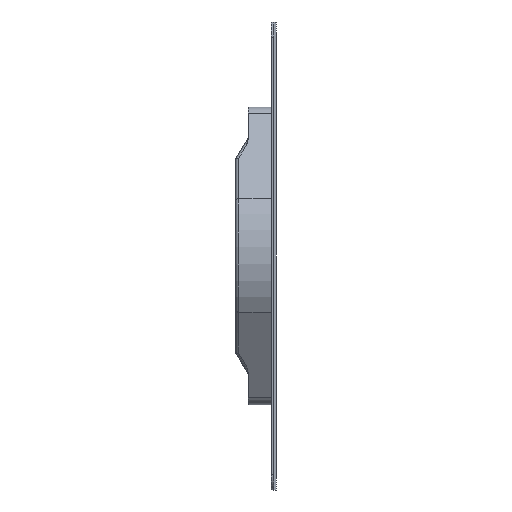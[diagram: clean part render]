
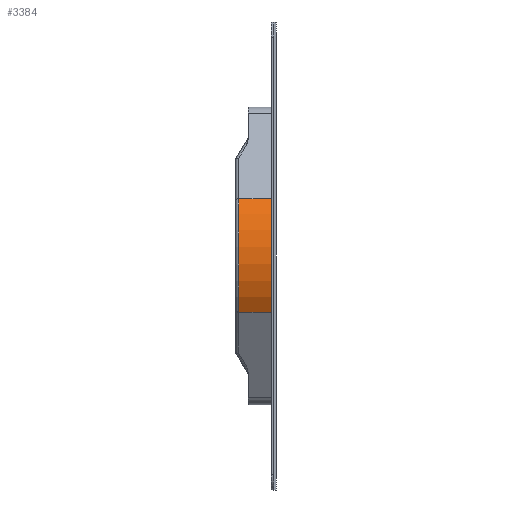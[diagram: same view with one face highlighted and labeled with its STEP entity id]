
A CAD part, left-side view. The second image highlights one B-rep face of the part: STEP entity #3384.
In plain terms, the highlighted cylindrical face has radius 41.275 mm (diameter 82.55 mm), a partial arc.
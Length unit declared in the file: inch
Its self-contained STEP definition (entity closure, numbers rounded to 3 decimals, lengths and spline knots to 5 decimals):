
#40 = ORIENTED_EDGE ( 'NONE', *, *, #181, .T. ) ;
#145 = ORIENTED_EDGE ( 'NONE', *, *, #304, .T. ) ;
#181 = EDGE_CURVE ( 'NONE', #193, #2678, #3799, .T. ) ;
#193 = VERTEX_POINT ( 'NONE', #3547 ) ;
#304 = EDGE_CURVE ( 'NONE', #2678, #3143, #3407, .T. ) ;
#433 = LINE ( 'NONE', #2117, #446 ) ;
#446 = VECTOR ( 'NONE', #2014, 39.37008 ) ;
#538 = CARTESIAN_POINT ( 'NONE',  ( 3.06543, 4.61074, 5.41153 ) ) ;
#633 = EDGE_LOOP ( 'NONE', ( #4498, #4631, #40, #145 ) ) ;
#886 = CIRCLE ( 'NONE', #3745, 1.625 ) ;
#1409 = DIRECTION ( 'NONE',  ( 1., 0., -0.006 ) ) ;
#1461 = DIRECTION ( 'NONE',  ( 0., -1., 0. ) ) ;
#1474 = CARTESIAN_POINT ( 'NONE',  ( 3.06543, 4.76074, 5.41153 ) ) ;
#1785 = CYLINDRICAL_SURFACE ( 'NONE', #3409, 1.625 ) ;
#1862 = FACE_OUTER_BOUND ( 'NONE', #633, .T. ) ;
#2014 = DIRECTION ( 'NONE',  ( 0., -1., 0. ) ) ;
#2117 = CARTESIAN_POINT ( 'NONE',  ( 1.72467, 4.61074, 6.32967 ) ) ;
#2263 = CARTESIAN_POINT ( 'NONE',  ( 1.72467, 4.76074, 6.32967 ) ) ;
#2330 = CARTESIAN_POINT ( 'NONE',  ( 1.71306, 4.23574, 4.51058 ) ) ;
#2678 = VERTEX_POINT ( 'NONE', #2330 ) ;
#2685 = EDGE_CURVE ( 'NONE', #4933, #3143, #433, .T. ) ;
#3143 = VERTEX_POINT ( 'NONE', #4257 ) ;
#3384 = ADVANCED_FACE ( 'NONE', ( #1862 ), #1785, .T. ) ;
#3407 = CIRCLE ( 'NONE', #4350, 1.625 ) ;
#3409 = AXIS2_PLACEMENT_3D ( 'NONE', #538, #4768, #4782 ) ;
#3547 = CARTESIAN_POINT ( 'NONE',  ( 1.71306, 4.76074, 4.51058 ) ) ;
#3745 = AXIS2_PLACEMENT_3D ( 'NONE', #1474, #1461, #1409 ) ;
#3788 = VECTOR ( 'NONE', #4129, 39.37008 ) ;
#3799 = LINE ( 'NONE', #4355, #3788 ) ;
#4105 = EDGE_CURVE ( 'NONE', #4933, #193, #886, .T. ) ;
#4129 = DIRECTION ( 'NONE',  ( 0., -1., 0. ) ) ;
#4257 = CARTESIAN_POINT ( 'NONE',  ( 1.72467, 4.23574, 6.32967 ) ) ;
#4350 = AXIS2_PLACEMENT_3D ( 'NONE', #4745, #4694, #4567 ) ;
#4355 = CARTESIAN_POINT ( 'NONE',  ( 1.71306, 4.61074, 4.51058 ) ) ;
#4498 = ORIENTED_EDGE ( 'NONE', *, *, #2685, .F. ) ;
#4567 = DIRECTION ( 'NONE',  ( -1., 0., 0.006 ) ) ;
#4631 = ORIENTED_EDGE ( 'NONE', *, *, #4105, .T. ) ;
#4694 = DIRECTION ( 'NONE',  ( 0., 1., 0. ) ) ;
#4745 = CARTESIAN_POINT ( 'NONE',  ( 3.06543, 4.23574, 5.41153 ) ) ;
#4768 = DIRECTION ( 'NONE',  ( 0., -1., 0. ) ) ;
#4782 = DIRECTION ( 'NONE',  ( 1., 0., -0.006 ) ) ;
#4933 = VERTEX_POINT ( 'NONE', #2263 ) ;
